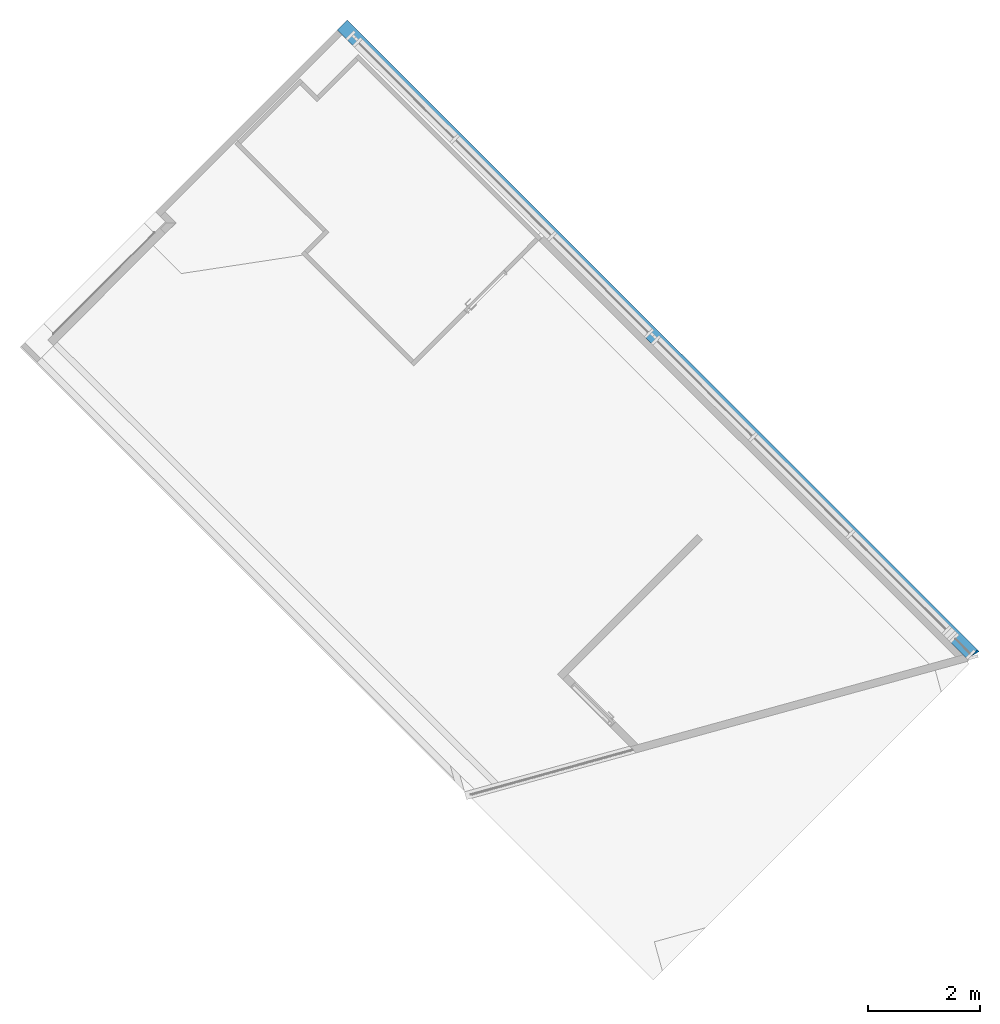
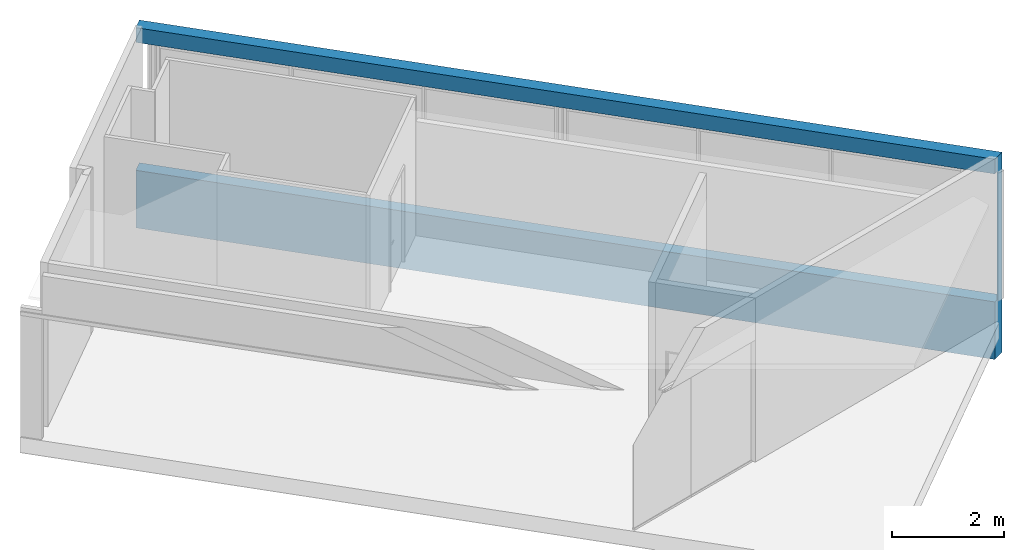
# One storey, part 5 of 6: 1 wall.
"""IFC2X3 building model written with IfcOpenShell, lengths in millimetres."""

import ifcopenshell
import ifcopenshell.guid

model = None  # the IFC model being written
_history = None  # IfcOwnerHistory: only IFC2X3 demands one
_inside = {}  # id of a spatial element -> (the spatial element, [elements in it])
_under = {}  # id of a project, library or spatial element -> (it, [spatial elements below it])
_declared = {}  # id of a project -> (the project, [libraries it declares])
_typed = {}  # id of a type object -> (the type object, [elements of that type])
_made_of = {}  # id of a material, layer set ... -> (it, [elements and type objects made of it])


def new_model(schema):
    """Start an empty IFC model of exactly this schema.

    Asked for "IFC4X3", IfcOpenShell would pick the latest addendum, in which some entities
    have other attributes; the version numbers below select the first issue.
    IFC2X3 requires an IfcOwnerHistory on every rooted entity: one is made here for all.
    """
    global model, _history
    if schema == "IFC4X3":
        model = ifcopenshell.file(schema_version=(4, 3, 0, 0))
    else:
        model = ifcopenshell.file(schema=schema)
    _inside.clear()
    _under.clear()
    _declared.clear()
    _typed.clear()
    _made_of.clear()
    _history = None
    if model.schema == "IFC2X3":
        org = make("IfcOrganization", Name="unknown")
        user = make(
            "IfcPersonAndOrganization",
            ThePerson=make("IfcPerson", FamilyName="unknown"),
            TheOrganization=org,
        )
        app = make(
            "IfcApplication",
            ApplicationDeveloper=org,
            Version="unknown",
            ApplicationFullName="unknown",
            ApplicationIdentifier="unknown",
        )
        _history = make(
            "IfcOwnerHistory",
            OwningUser=user,
            OwningApplication=app,
            ChangeAction="ADDED",
            CreationDate=0,
        )
    return model


def make(cls, **values):
    """One entity of the class cls with the attributes given. An attribute that is None is left unset."""
    return model.create_entity(
        cls, **{name: value for name, value in values.items() if value is not None}
    )


def entity(cls, *values):
    """Any entity or typed value of the class cls, its attributes in the order of the schema. None: left unset."""
    e = model.create_entity(cls)
    for i, value in enumerate(values):
        if value is not None:
            e[i] = value
    return e


def rooted(cls, **values):
    """An entity with a GlobalId (a new one), such as an element, a storey or a relation."""
    return make(cls, GlobalId=ifcopenshell.guid.new(), OwnerHistory=_history, **values)


def si_unit(unit_type, name, prefix=None):
    """IfcSIUnit, for example si_unit("LENGTHUNIT", "METRE", prefix="MILLI")."""
    return make("IfcSIUnit", UnitType=unit_type, Prefix=prefix, Name=name)


def converted_unit(unit_type, name, factor, base, dimensions=None, offset=None):
    """IfcConversionBasedUnit, such as the inch: factor (a typed value) times the base unit."""
    return make(
        "IfcConversionBasedUnit"
        if offset is None
        else "IfcConversionBasedUnitWithOffset",
        ConversionOffset=offset,
        Dimensions=None
        if dimensions is None
        else entity("IfcDimensionalExponents", *dimensions),
        UnitType=unit_type,
        Name=name,
        ConversionFactor=make(
            "IfcMeasureWithUnit", ValueComponent=factor, UnitComponent=base
        ),
    )


def derived_unit(unit_type, elements):
    """IfcDerivedUnit: a product of units, each with its exponent."""
    return make(
        "IfcDerivedUnit",
        Elements=[
            make("IfcDerivedUnitElement", Unit=unit, Exponent=power)
            for unit, power in elements
        ],
        UnitType=unit_type,
    )


def assignment(units):
    """IfcUnitAssignment: the units of a project."""
    return None if units is None else make("IfcUnitAssignment", Units=units)


def point(xyz):
    """IfcCartesianPoint."""
    return None if xyz is None else make("IfcCartesianPoint", Coordinates=xyz)


def direction(xyz):
    """IfcDirection."""
    return None if xyz is None else make("IfcDirection", DirectionRatios=xyz)


def frame(location, z_axis=None, x_axis=None):
    """IfcAxis2Placement3D, a coordinate frame: its origin and axes. An axis left out is left unset."""
    return make(
        "IfcAxis2Placement3D",
        Location=point(location),
        Axis=direction(z_axis),
        RefDirection=direction(x_axis),
    )


def origin():
    """The frame at (0, 0, 0) with its axes left unset."""
    return frame((0.0, 0.0, 0.0))


def origin_with_axes():
    """The frame at (0, 0, 0) with the z axis (0, 0, 1) and the x axis (1, 0, 0) written out."""
    return frame((0.0, 0.0, 0.0), z_axis=(0.0, 0.0, 1.0), x_axis=(1.0, 0.0, 0.0))


def place(relative_to, where):
    """IfcLocalPlacement: puts the frame where relative to a parent placement (None: the world)."""
    return make(
        "IfcLocalPlacement", PlacementRelTo=relative_to, RelativePlacement=where
    )


def context(
    kind, dimensions, precision=None, world=None, true_north=None, identifier=None
):
    """IfcGeometricRepresentationContext, for example the 3D "Model" context."""
    return make(
        "IfcGeometricRepresentationContext",
        ContextIdentifier=identifier,
        ContextType=kind,
        CoordinateSpaceDimension=dimensions,
        Precision=precision,
        WorldCoordinateSystem=world,
        TrueNorth=true_north,
    )


def subcontext(parent, identifier, kind, view, scale=None):
    """IfcGeometricRepresentationSubContext, for example "Body" below "Model"."""
    return make(
        "IfcGeometricRepresentationSubContext",
        ContextIdentifier=identifier,
        ContextType=kind,
        ParentContext=parent,
        TargetScale=scale,
        TargetView=view,
    )


def project(units=None, contexts=None):
    """IfcProject with its units and contexts."""
    return rooted(
        "IfcProject",
        Name="project",
        RepresentationContexts=contexts,
        UnitsInContext=assignment(units),
    )


def spatial(cls, under=None, at=None, **own):
    """A site, building, storey or space (cls), placed at a placement, below another one or the project."""
    s = rooted(cls, ObjectPlacement=at, **own)
    if under is not None:
        _under.setdefault(under.id(), (under, []))[1].append(s)
    return s


def faces_of(points, faces, orient=None, outer=None):
    """IfcFace entities. A face is a list of loops; a loop is a list of indices into points, from 0.

    orient and outer hold one flag for each loop. By default every Orientation is true, the
    first loop of a face is its IfcFaceOuterBound and the others are IfcFaceBound.
    """
    made = []
    for i, loops in enumerate(faces):
        bounds = []
        for j, loop in enumerate(loops):
            is_outer = j == 0 if outer is None else outer[i][j]
            bounds.append(
                make(
                    "IfcFaceOuterBound" if is_outer else "IfcFaceBound",
                    Bound=make("IfcPolyLoop", Polygon=[points[k] for k in loop]),
                    Orientation=True if orient is None else orient[i][j],
                )
            )
        made.append(make("IfcFace", Bounds=bounds))
    return made


def faceted_brep(points, faces, orient=None, outer=None, voids=None):
    """IfcFacetedBrep: a solid bounded by flat faces; with voids (closed shells), ...WithVoids."""
    shared = [point(p) for p in points]
    hull = make("IfcClosedShell", CfsFaces=faces_of(shared, faces, orient, outer))
    if voids is None:
        return make("IfcFacetedBrep", Outer=hull)
    return make(
        "IfcFacetedBrepWithVoids",
        Outer=hull,
        Voids=[
            make(cls, CfsFaces=faces_of(shared, fs, o, b)) for cls, fs, o, b in voids
        ],
    )


def shape(context_of_items, identifier, shape_type, items):
    """IfcShapeRepresentation: the items that make up one representation, for example the "Body"."""
    return make(
        "IfcShapeRepresentation",
        ContextOfItems=context_of_items,
        RepresentationIdentifier=identifier,
        RepresentationType=shape_type,
        Items=items,
    )


def material(Name=None, Category=None):
    """IfcMaterial."""
    return make("IfcMaterial", Name=Name, Category=Category)


def layer(
    of_material, thickness, ventilated=None, Name=None, Category=None, Priority=None
):
    """IfcMaterialLayer: one layer of a wall or slab, of a material (None: an air gap)."""
    return make(
        "IfcMaterialLayer",
        Material=of_material,
        LayerThickness=thickness,
        IsVentilated=ventilated,
        Name=Name,
        Category=Category,
        Priority=Priority,
    )


def layer_set(layers, Name=None):
    """IfcMaterialLayerSet."""
    return make("IfcMaterialLayerSet", MaterialLayers=layers, LayerSetName=Name)


def made_of(thing, what):
    """Note that an element or type object is made of a material, layer set ...; save() writes the relation."""
    if what is not None:
        _made_of.setdefault(what.id(), (what, []))[1].append(thing)
    return thing


def type_object(cls, material=None, **own):
    """A type object (cls), such as IfcWallType, which elements share."""
    return made_of(rooted(cls, **own), material)


def element(
    cls,
    number,
    at=None,
    inside=None,
    cuts=None,
    type_object=None,
    material=None,
    context=None,
    identifier="Body",
    shape_type=None,
    held_by="IfcProductDefinitionShape",
    body=None,
    shapes=None,
    **own,
):
    """One element of the class cls, such as IfcWall. Its Tag is "e" and its number.

    at: its placement. inside: the storey or other place that contains it. cuts: it is an
    opening in that element (IfcRelVoidsElement). A single representation is given by context,
    identifier, shape_type and body (its items); several are given by shapes. held_by: the class
    of the entity that holds the representations. save() writes the other relations.
    """
    e = rooted(cls, Tag="e%d" % number, ObjectPlacement=at, **own)
    if body is not None:
        shapes = [shape(context, identifier, shape_type, body)]
    if shapes is not None:
        e.Representation = make(held_by, Representations=shapes)
    if inside is not None:
        _inside.setdefault(inside.id(), (inside, []))[1].append(e)
    if cuts is not None:
        rooted(
            "IfcRelVoidsElement", RelatingBuildingElement=cuts, RelatedOpeningElement=e
        )
    if type_object is not None:
        _typed.setdefault(type_object.id(), (type_object, []))[1].append(e)
    return made_of(e, material)


def aggregate(whole, parts):
    """IfcRelAggregates: a whole, such as a stair, and the parts it consists of."""
    return rooted("IfcRelAggregates", RelatingObject=whole, RelatedObjects=parts)


def save(model, path):
    """Write the relations noted so far, then the file.

    IfcRelAggregates (storeys below a building ...), IfcRelContainedInSpatialStructure (elements
    in a storey), IfcRelDefinesByType, IfcRelAssociatesMaterial and IfcRelDeclares: one each for
    every whole, place, type object, material and project.
    """
    for whole, parts in _under.values():
        aggregate(whole, parts)
    for where, things in _inside.values():
        rooted(
            "IfcRelContainedInSpatialStructure",
            RelatedElements=things,
            RelatingStructure=where,
        )
    for kind, things in _typed.values():
        rooted("IfcRelDefinesByType", RelatedObjects=things, RelatingType=kind)
    for what, things in _made_of.values():
        rooted("IfcRelAssociatesMaterial", RelatedObjects=things, RelatingMaterial=what)
    for by, libraries in _declared.values():
        rooted("IfcRelDeclares", RelatingContext=by, RelatedDefinitions=libraries)
    model.write(path)


model = new_model("IFC2X3")

# Units and contexts
model_context = context("Model", 3, precision=0.01, world=origin(), true_north=direction((6.12323399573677e-17, 1.0)))
plan_context = context("Plan", 3, precision=1e-05, world=origin_with_axes())
body_context = subcontext(model_context, "Body", "Model", "MODEL_VIEW")
ifc_project = project(units=[converted_unit("PLANEANGLEUNIT", "DEGREE", entity("IfcPositiveLengthMeasure", 0.0174532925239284), si_unit("PLANEANGLEUNIT", "RADIAN"), dimensions=[0, 0, 0, 0, 0, 0, 0]), si_unit("AREAUNIT", "SQUARE_METRE"), si_unit("LENGTHUNIT", "METRE", prefix="MILLI"), si_unit("MASSUNIT", "GRAM", prefix="KILO"), si_unit("POWERUNIT", "WATT"), si_unit("PRESSUREUNIT", "PASCAL", prefix="KILO"), si_unit("FORCEUNIT", "NEWTON", prefix="KILO"), si_unit("ELECTRICVOLTAGEUNIT", "VOLT"), si_unit("ELECTRICCURRENTUNIT", "AMPERE"), si_unit("THERMODYNAMICTEMPERATUREUNIT", "DEGREE_CELSIUS"), si_unit("TIMEUNIT", "SECOND"), si_unit("VOLUMEUNIT", "CUBIC_METRE"), derived_unit("LINEARVELOCITYUNIT", [(si_unit("LENGTHUNIT", "METRE"), 1), (si_unit("TIMEUNIT", "SECOND"), -1)]), derived_unit("VOLUMETRICFLOWRATEUNIT", [(si_unit("VOLUMEUNIT", "CUBIC_METRE"), 1), (si_unit("TIMEUNIT", "SECOND"), -1)]), derived_unit("THERMALTRANSMITTANCEUNIT", [(si_unit("POWERUNIT", "WATT"), 1), (si_unit("THERMODYNAMICTEMPERATUREUNIT", "KELVIN"), -1), (si_unit("AREAUNIT", "SQUARE_METRE"), -1)]), derived_unit("SOUNDPRESSUREUNIT", [(si_unit("PRESSUREUNIT", "PASCAL"), 1)])], contexts=[model_context, plan_context])

# Site, building, storey
site_placement = place(None, frame((0.0, -2.21771188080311e-09, 0.0), z_axis=(0.0, 0.0, 1.0), x_axis=(0.266093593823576, -0.963947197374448, 0.0)))
site = spatial("IfcSite", under=ifc_project, at=site_placement, Name="ENZV", CompositionType="ELEMENT")
building_placement = place(site_placement, origin_with_axes())
building = spatial("IfcBuilding", under=site, at=building_placement, Name="ZV001", CompositionType="ELEMENT")
storey_placement = place(building_placement, frame((0.0, 0.0, 9300.0), z_axis=(0.0, 0.0, 1.0), x_axis=(1.0, 0.0, 0.0)))
storey = spatial("IfcBuildingStorey", under=building, at=storey_placement, Name="H02", CompositionType="ELEMENT", Elevation=9300.0)

# Wall
ifc_material = material(Name="Vegg")
ifc_layer = layer(ifc_material, 246.0)
ifc_layer_set = layer_set([ifc_layer], Name="Basic Wall:Standard - 246mm")
wall_type = type_object("IfcWallType", Name="Basic Wall:Standard - 246mm", PredefinedType="STANDARD", material=ifc_layer_set)
wall_placement = place(storey_placement, frame((-270843.64542201, 423171.541215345, -850.014544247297), z_axis=(0.0, 0.0, 1.0), x_axis=(0.869404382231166, 0.494101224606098, 0.0)))
element("IfcWall", 1, at=wall_placement, inside=storey, type_object=wall_type, Name="Basic Wall:Standard - 246mm", ObjectType="Basic Wall:Standard - 246mm", context=body_context, shape_type="Brep", body=[
    faceted_brep([(7671.71593038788, -123.0, 4030.01454424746), (7671.71593038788, -123.0, 4350.0145442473), (23498.8903479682, -123.0, 4350.0145442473), (23498.8903479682, -123.0, 4030.01454424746), (7671.71593038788, -123.0, 0.0), (7671.71593038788, -123.0, 1250.01454424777), (23498.8903479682, -123.0, 1250.01454424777), (23498.8903479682, -123.0, 0.0), (23563.9104701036, 123.0, 4350.0145442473), (23563.9104701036, 123.0, 0.0), (23518.3290139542, -49.4548931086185, 1250.01454424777), (23518.3290139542, -49.4548931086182, 4030.01454424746), (7671.71593038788, 123.0, 4350.0145442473), (7671.71593038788, 123.0, 4030.01454424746), (23518.3290139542, 123.0, 4030.01454424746), (23518.3290139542, 123.0, 1250.01454424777), (7671.71593038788, 123.0, 1250.01454424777), (7671.71593038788, 123.0, 0.0), (22995.9999989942, -123.0, 1250.01454424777), (15495.9994285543, -123.0, 1250.01454424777), (15495.9994285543, 123.0, 1250.01454424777), (22995.9999989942, 123.0, 1250.01454424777), (15495.9994285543, -123.0, 4030.01454424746), (22995.9999989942, -123.0, 4030.01454424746), (22995.9999989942, 123.0, 4030.01454424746), (15495.9994285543, 123.0, 4030.01454424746), (7995.99885811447, 123.0, 1250.01454424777), (7995.99885811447, -123.0, 1250.01454424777), (7995.99885811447, -123.0, 4030.01454424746), (7995.99885811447, 123.0, 4030.01454424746)], [[[0, 1, 2, 3]], [[4, 5, 6, 7]], [[2, 8, 9, 7, 6, 10, 11, 3]], [[8, 12, 13, 14, 15, 16, 17, 9]], [[17, 4, 7, 9]], [[18, 19, 20, 21]], [[22, 23, 24, 25]], [[5, 16, 26, 27]], [[13, 0, 28, 29]], [[19, 27, 26, 20]], [[28, 22, 25, 29]], [[10, 6, 18, 21, 15]], [[23, 3, 11, 14, 24]], [[11, 10, 15, 14]], [[1, 0, 13, 12]], [[17, 16, 5, 4]], [[12, 8, 2, 1]]], orient=[[False], [False], [False], [False], [False], [False], [False], [False], [False], [False], [False], [False], [False], [False], [False], [False], [False]]),
])

save(model, "model.ifc")
